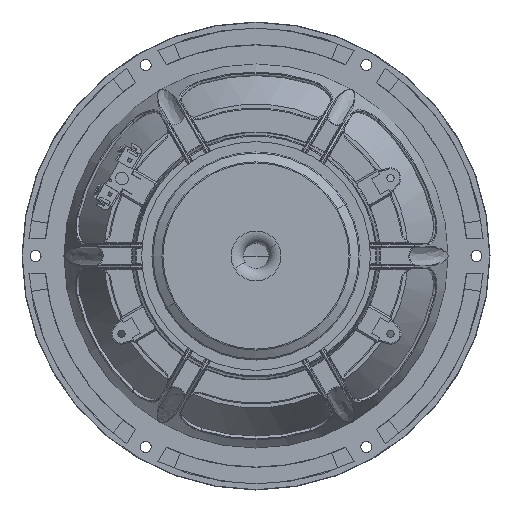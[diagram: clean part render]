
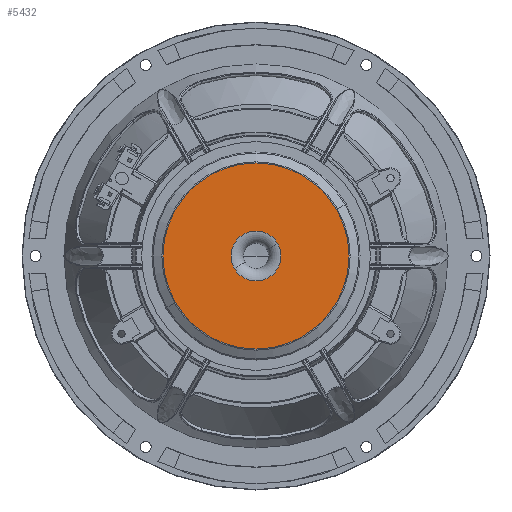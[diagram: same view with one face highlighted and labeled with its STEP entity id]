
A CAD part, front view. The second image highlights one B-rep face of the part: STEP entity #5432.
In plain terms, the highlighted planar face has unit normal (0, -1, 0).
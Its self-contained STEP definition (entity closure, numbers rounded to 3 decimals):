
#4189 = DIRECTION ( 'NONE',  ( 0., -1., 0. ) ) ;
#4878 = AXIS2_PLACEMENT_3D ( 'NONE', #18550, #33781, #29877 ) ;
#5432 = ADVANCED_FACE ( 'NONE', ( #12251, #17848 ), #44760, .T. ) ;
#5669 = AXIS2_PLACEMENT_3D ( 'NONE', #61408, #19767, #34660 ) ;
#5710 = DIRECTION ( 'NONE',  ( 0., -1., 0. ) ) ;
#10038 = CARTESIAN_POINT ( 'NONE',  ( -38.731, -72.086, -22.362 ) ) ;
#10939 = CARTESIAN_POINT ( 'NONE',  ( 0., -72.086, 0. ) ) ;
#11285 = DIRECTION ( 'NONE',  ( 0.866, 0., 0.5 ) ) ;
#11659 = AXIS2_PLACEMENT_3D ( 'NONE', #10939, #5710, #11285 ) ;
#12251 = FACE_OUTER_BOUND ( 'NONE', #69438, .T. ) ;
#13192 = EDGE_CURVE ( 'NONE', #27980, #66372, #69576, .T. ) ;
#13803 = CARTESIAN_POINT ( 'NONE',  ( 0., -72.086, 0. ) ) ;
#13903 = CARTESIAN_POINT ( 'NONE',  ( 10.392, -72.086, 6. ) ) ;
#14254 = ORIENTED_EDGE ( 'NONE', *, *, #15369, .T. ) ;
#15369 = EDGE_CURVE ( 'NONE', #66372, #27980, #43847, .T. ) ;
#16724 = AXIS2_PLACEMENT_3D ( 'NONE', #13803, #67305, #50863 ) ;
#17848 = FACE_BOUND ( 'NONE', #51318, .T. ) ;
#18550 = CARTESIAN_POINT ( 'NONE',  ( 10.392, -72.086, 6. ) ) ;
#19767 = DIRECTION ( 'NONE',  ( 0., -1., 0. ) ) ;
#20284 = DIRECTION ( 'NONE',  ( 0.866, 0., 0.5 ) ) ;
#24397 = AXIS2_PLACEMENT_3D ( 'NONE', #42950, #4189, #20284 ) ;
#25900 = ORIENTED_EDGE ( 'NONE', *, *, #13192, .T. ) ;
#27980 = VERTEX_POINT ( 'NONE', #10038 ) ;
#29877 = DIRECTION ( 'NONE',  ( 0.866, 0., 0.5 ) ) ;
#31249 = EDGE_CURVE ( 'NONE', #67052, #39033, #69048, .T. ) ;
#33781 = DIRECTION ( 'NONE',  ( 0., -1., 0. ) ) ;
#34660 = DIRECTION ( 'NONE',  ( 0.866, 0., 0.5 ) ) ;
#37173 = CIRCLE ( 'NONE', #5669, 12. ) ;
#39033 = VERTEX_POINT ( 'NONE', #48360 ) ;
#40857 = ORIENTED_EDGE ( 'NONE', *, *, #31249, .F. ) ;
#42950 = CARTESIAN_POINT ( 'NONE',  ( 0., -72.086, 0. ) ) ;
#43847 = CIRCLE ( 'NONE', #16724, 44.723 ) ;
#44760 = PLANE ( 'NONE',  #4878 ) ;
#45179 = CARTESIAN_POINT ( 'NONE',  ( 38.731, -72.086, 22.362 ) ) ;
#48360 = CARTESIAN_POINT ( 'NONE',  ( -10.392, -72.086, -6. ) ) ;
#50863 = DIRECTION ( 'NONE',  ( 0.866, 0., 0.5 ) ) ;
#51318 = EDGE_LOOP ( 'NONE', ( #40857, #61257 ) ) ;
#61257 = ORIENTED_EDGE ( 'NONE', *, *, #63918, .F. ) ;
#61408 = CARTESIAN_POINT ( 'NONE',  ( 0., -72.086, 0. ) ) ;
#63918 = EDGE_CURVE ( 'NONE', #39033, #67052, #37173, .T. ) ;
#66372 = VERTEX_POINT ( 'NONE', #45179 ) ;
#67052 = VERTEX_POINT ( 'NONE', #13903 ) ;
#67305 = DIRECTION ( 'NONE',  ( 0., -1., 0. ) ) ;
#69048 = CIRCLE ( 'NONE', #11659, 12. ) ;
#69438 = EDGE_LOOP ( 'NONE', ( #14254, #25900 ) ) ;
#69576 = CIRCLE ( 'NONE', #24397, 44.723 ) ;
